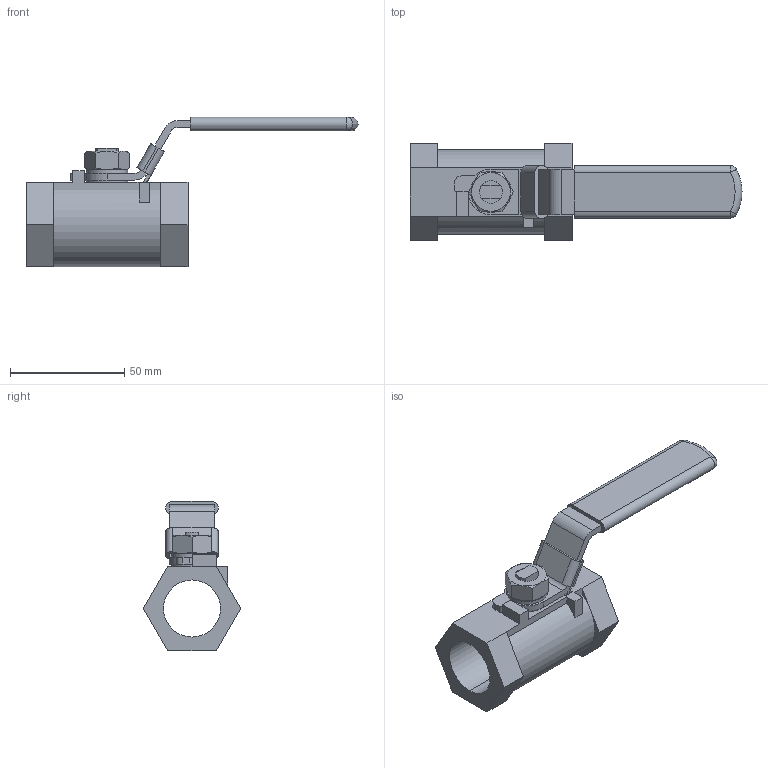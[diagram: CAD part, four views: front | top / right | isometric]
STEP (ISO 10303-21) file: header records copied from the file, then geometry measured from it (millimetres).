
FILE_DESCRIPTION( (''), '2;1');
FILE_NAME ('PC1276.13404.BLV-1S 25A_14569.stp','2025-09-19T13:14:08',(''),(''),'spGate 20.6.3 (****-****-****-****)','','');
FILE_SCHEMA (('AUTOMOTIVE_DESIGN'));
Length unit declared in the file: millimetre
Products named in the file (5): Assembly; BLV-1S 25A 本体; CP_''_JIS B 1256 小形-部品等級A 1''_17239; CP_''_JIS B 1181 六角ナット 2種 上 ''_700; BLV-1S 25A ハンドル
Assembly tree (5 placements, depth 2):
  Assembly
    BLV-1S 25A 本体
    CP_''_JIS B 1256 小形-部品等級A 1''_17239  x2
    CP_''_JIS B 1181 六角ナット 2種 上 ''_700
    BLV-1S 25A ハンドル
Bounding box: 145.5 x 42.72 x 65.5 mm (x, y, z)
Volume: 62173 mm3; surface area: 25920.7 mm2
Topology: 5 solids, 5 shells, 128 faces, 318 edges, 200 vertices
Faces by surface type: plane 82, cylinder 31, bspline 13, sphere 2
Entity records: 6312 total; most frequent: CARTESIAN_POINT 851, ORIENTED_EDGE 604, DIRECTION 596, COLOUR_RGB 428, PRESENTATION_STYLE_ASSIGNMENT 428, STYLED_ITEM 428, EDGE_CURVE 302, DRAUGHTING_PRE_DEFINED_CURVE_FONT 302
